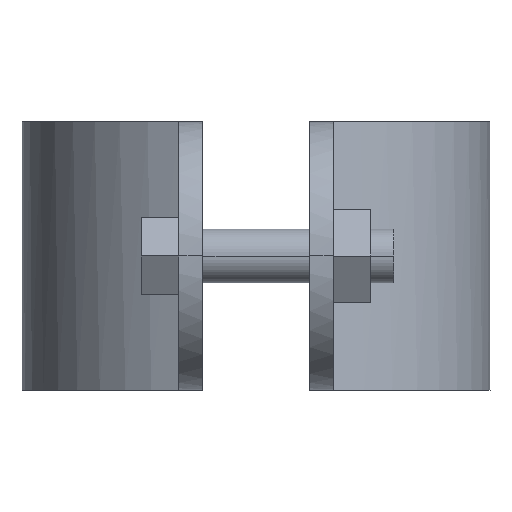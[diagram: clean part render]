
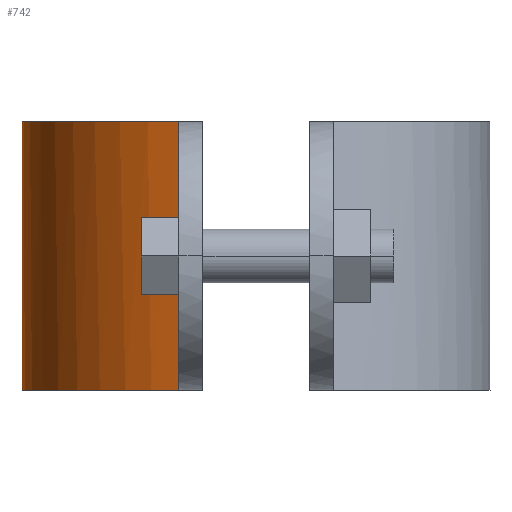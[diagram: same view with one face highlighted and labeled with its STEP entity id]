
A CAD part, left-side view. The second image highlights one B-rep face of the part: STEP entity #742.
In plain terms, the highlighted free-form (B-spline) face has degree [3, 1] with [4, 2] control points.
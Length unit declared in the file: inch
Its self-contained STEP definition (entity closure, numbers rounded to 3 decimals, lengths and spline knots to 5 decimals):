
#534=EDGE_CURVE('',#1223,#1224,#1225,.T.);
#536=EDGE_CURVE('',#1202,#1089,#1227,.T.);
#664=EDGE_CURVE('',#1202,#1224,#1397,.T.);
#742=ADVANCED_FACE('',(#1490),#1491,.T.);
#874=EDGE_CURVE('',#1089,#1223,#1646,.T.);
#1089=VERTEX_POINT('',#1964);
#1202=VERTEX_POINT('',#2152);
#1223=VERTEX_POINT('',#2185);
#1224=VERTEX_POINT('',#2186);
#1225=B_SPLINE_CURVE_WITH_KNOTS('',3,(#2187,#2188,#2189,#2190),.UNSPECIFIED.,.F.,.F.,(4,4),(0.0,1.0),.UNSPECIFIED.);
#1227=B_SPLINE_CURVE_WITH_KNOTS('',3,(#2193,#2194,#2195,#2196),.UNSPECIFIED.,.F.,.F.,(4,4),(-1.0,-0.0),.UNSPECIFIED.);
#1397=LINE('',#2507,#2508);
#1490=FACE_OUTER_BOUND('',#2683,.T.);
#1491=B_SPLINE_SURFACE_WITH_KNOTS('',3,1,((#2684,#2685),(#2686,#2687),(#2688,#2689),(#2690,#2691)),.UNSPECIFIED.,.F.,.F.,.F.,(4,4),(2,2),(-1.0,-0.0),(0.0,1.25),.UNSPECIFIED.);
#1646=LINE('',#2988,#2989);
#1964=CARTESIAN_POINT('',(0.57031,1.42858,0.0001));
#2152=CARTESIAN_POINT('',(1.89508,2.1189,0.0001));
#2185=CARTESIAN_POINT('',(0.57031,1.42858,1.24989));
#2186=CARTESIAN_POINT('',(1.89508,2.1189,1.24989));
#2187=CARTESIAN_POINT('',(0.57031,1.42858,1.24989));
#2188=CARTESIAN_POINT('',(0.76312,1.96998,1.24989));
#2189=CARTESIAN_POINT('',(1.34088,2.27103,1.24989));
#2190=CARTESIAN_POINT('',(1.89508,2.1189,1.24989));
#2193=CARTESIAN_POINT('',(1.89508,2.1189,0.0001));
#2194=CARTESIAN_POINT('',(1.34088,2.27103,0.0001));
#2195=CARTESIAN_POINT('',(0.76312,1.96998,0.0001));
#2196=CARTESIAN_POINT('',(0.57031,1.42858,0.0001));
#2507=CARTESIAN_POINT('',(1.89508,2.1189,0.0));
#2508=VECTOR('',#3510,1.0);
#2683=EDGE_LOOP('',(#3622,#3623,#3624,#3625));
#2684=CARTESIAN_POINT('',(1.89508,2.1189,0.0));
#2685=CARTESIAN_POINT('',(1.89508,2.1189,1.25));
#2686=CARTESIAN_POINT('',(1.34088,2.27103,0.0));
#2687=CARTESIAN_POINT('',(1.34088,2.27103,1.25));
#2688=CARTESIAN_POINT('',(0.76312,1.96998,0.0));
#2689=CARTESIAN_POINT('',(0.76312,1.96998,1.25));
#2690=CARTESIAN_POINT('',(0.57031,1.42858,0.0));
#2691=CARTESIAN_POINT('',(0.57031,1.42858,1.25));
#2988=CARTESIAN_POINT('',(0.57031,1.42858,0.0));
#2989=VECTOR('',#3823,1.0);
#3510=DIRECTION('',(0.0,0.0,1.0));
#3622=ORIENTED_EDGE('',*,*,#536,.T.);
#3623=ORIENTED_EDGE('',*,*,#874,.T.);
#3624=ORIENTED_EDGE('',*,*,#534,.T.);
#3625=ORIENTED_EDGE('',*,*,#664,.F.);
#3823=DIRECTION('',(0.0,0.0,1.0));
